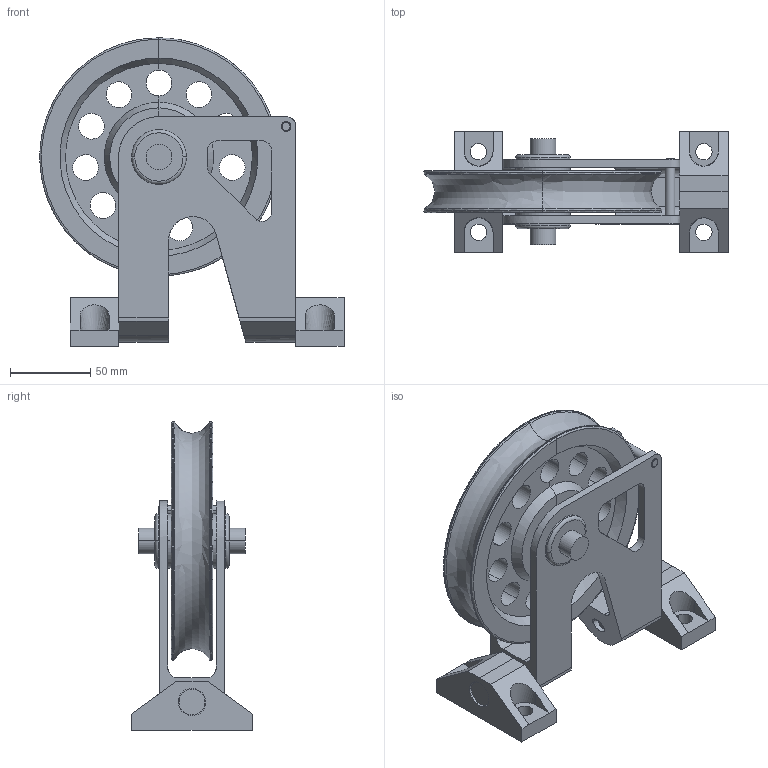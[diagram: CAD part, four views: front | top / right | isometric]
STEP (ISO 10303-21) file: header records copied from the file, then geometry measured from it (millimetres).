
FILE_DESCRIPTION(/* description */ (''),/* implementation_level */ '2;1');
FILE_NAME(/* name */ 'POULIE SIMPLE ARTICULEE D 150',/* time_stamp */ '2005-05-31T08:57:53+02:00',/* author */ (''),/* organization */ (''),/* preprocessor_version */ 'ST-DEVELOPER v8',/* originating_system */ '',/* authorisation */ '');
FILE_SCHEMA (('CONFIG_CONTROL_DESIGN'));
Length unit declared in the file: millimetre
Products named in the file (1): 1
Bounding box: 188.89 x 75 x 191.5 mm (x, y, z)
Volume: 511886.1 mm3; surface area: 170128.8 mm2
Topology: 21 solids, 27 shells, 347 faces, 790 edges, 486 vertices
Faces by surface type: bspline 347
Entity records: 14117 total; most frequent: CARTESIAN_POINT 9393, ORIENTED_EDGE 1558, EDGE_CURVE 786, VERTEX_POINT 482, B_SPLINE_CURVE_WITH_KNOTS 452, EDGE_LOOP 418, ADVANCED_FACE 347, FACE_OUTER_BOUND 347
